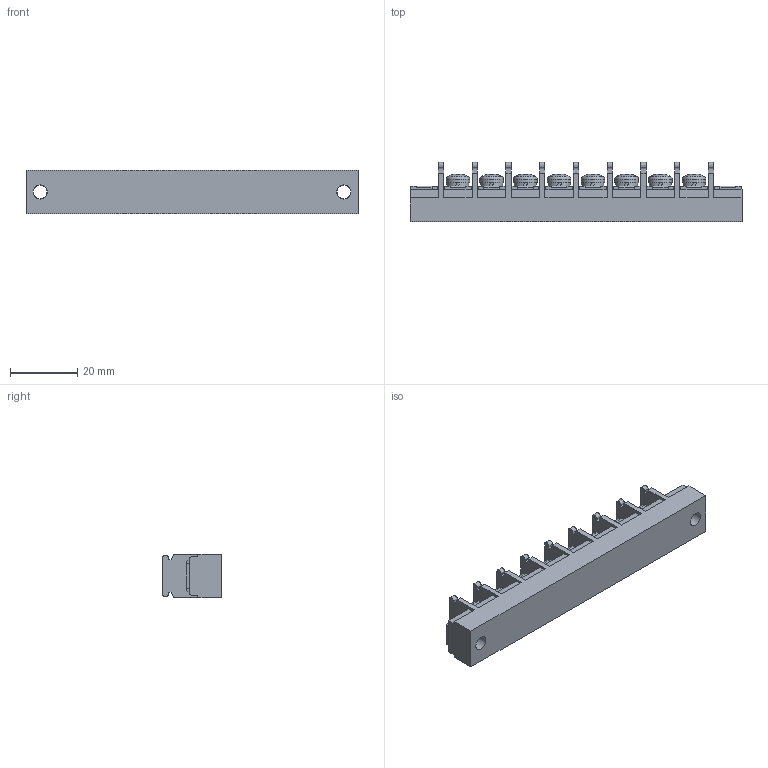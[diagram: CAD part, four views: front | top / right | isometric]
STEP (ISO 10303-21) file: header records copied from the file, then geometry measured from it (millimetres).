
FILE_DESCRIPTION(/* description */ ('Alibre Inc.'),/* implementation_level */ '2;1');
FILE_NAME(/* name */ 'export0',/* time_stamp */ '2015-10-17T18:45:08+09:00',/* author */ (''),/* organization */ (''),/* preprocessor_version */ 'ST-DEVELOPER v14',/* originating_system */ 'Alibre',/* authorisation */ '');
FILE_SCHEMA (('CONFIG_CONTROL_DESIGN'));
Length unit declared in the file: centimetre
Products named in the file (1): ID_1
Bounding box: 98.4 x 17.5 x 13 mm (x, y, z)
Volume: 14388.2 mm3; surface area: 8220.9 mm2
Topology: 1 solids, 17 shells, 904 faces, 2468 edges, 1638 vertices
Faces by surface type: plane 678, bspline 104, cylinder 66, cone 32, torus 16, sphere 8
Full cylindrical faces by diameter (mm): 4 x10, 4.2 x2, 6.5 x8, 7 x8
Entity records: 27641 total; most frequent: CARTESIAN_POINT 6119, ORIENTED_EDGE 4812, DIRECTION 3426, EDGE_CURVE 2406, VECTOR 1778, LINE 1778, VERTEX_POINT 1612, AXIS2_PLACEMENT_3D 1161
